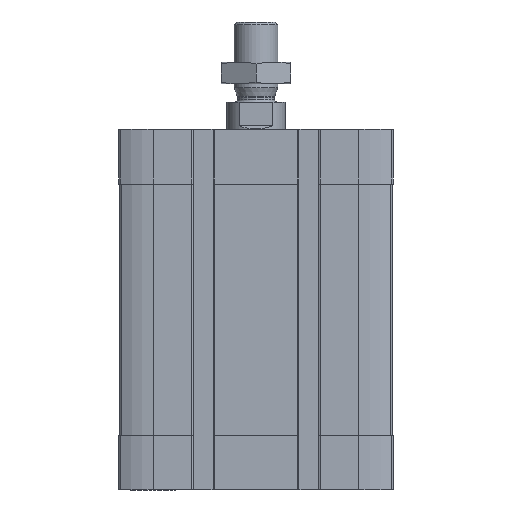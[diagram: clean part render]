
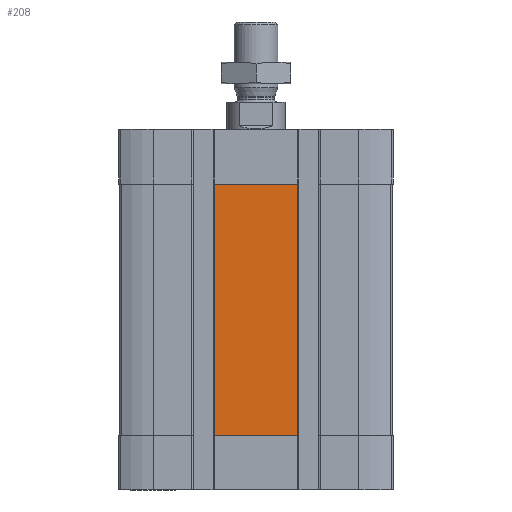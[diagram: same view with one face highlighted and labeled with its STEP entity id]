
A CAD part, front view. The second image highlights one B-rep face of the part: STEP entity #208.
In plain terms, the highlighted planar face has unit normal (0, -1, 0).
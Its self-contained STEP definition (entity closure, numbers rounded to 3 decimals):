
#208 = ADVANCED_FACE ( 'NONE', ( #1487 ), #9858, .T. ) ;
#984 = VERTEX_POINT ( 'NONE', #15698 ) ;
#1097 = ORIENTED_EDGE ( 'NONE', *, *, #8357, .T. ) ;
#1139 = DIRECTION ( 'NONE',  ( 0., 0., -1. ) ) ;
#1227 = CARTESIAN_POINT ( 'NONE',  ( -11.4, -37.5, -84. ) ) ;
#1487 = FACE_OUTER_BOUND ( 'NONE', #5169, .T. ) ;
#2251 = VECTOR ( 'NONE', #11407, 1000. ) ;
#2263 = LINE ( 'NONE', #11424, #2251 ) ;
#3756 = VERTEX_POINT ( 'NONE', #7557 ) ;
#3883 = ORIENTED_EDGE ( 'NONE', *, *, #5575, .T. ) ;
#4306 = EDGE_CURVE ( 'NONE', #10900, #3756, #5709, .T. ) ;
#4463 = EDGE_CURVE ( 'NONE', #4849, #984, #5386, .T. ) ;
#4685 = CARTESIAN_POINT ( 'NONE',  ( -11.4, -37.5, -84. ) ) ;
#4849 = VERTEX_POINT ( 'NONE', #4685 ) ;
#5169 = EDGE_LOOP ( 'NONE', ( #9679, #3883, #8457, #1097 ) ) ;
#5330 = VECTOR ( 'NONE', #8381, 1000. ) ;
#5386 = LINE ( 'NONE', #8251, #5330 ) ;
#5575 = EDGE_CURVE ( 'NONE', #984, #10900, #2263, .T. ) ;
#5692 = VECTOR ( 'NONE', #9510, 1000. ) ;
#5709 = LINE ( 'NONE', #9732, #5692 ) ;
#6358 = VECTOR ( 'NONE', #1139, 1000. ) ;
#6510 = LINE ( 'NONE', #1227, #6358 ) ;
#7557 = CARTESIAN_POINT ( 'NONE',  ( -11.4, -37.5, -15. ) ) ;
#8251 = CARTESIAN_POINT ( 'NONE',  ( -11.4, -37.5, -84. ) ) ;
#8357 = EDGE_CURVE ( 'NONE', #3756, #4849, #6510, .T. ) ;
#8381 = DIRECTION ( 'NONE',  ( 1., 0., 0. ) ) ;
#8457 = ORIENTED_EDGE ( 'NONE', *, *, #4306, .T. ) ;
#9510 = DIRECTION ( 'NONE',  ( -1., 0., 0. ) ) ;
#9679 = ORIENTED_EDGE ( 'NONE', *, *, #4463, .T. ) ;
#9732 = CARTESIAN_POINT ( 'NONE',  ( 0., -37.5, -15. ) ) ;
#9858 = PLANE ( 'NONE',  #11853 ) ;
#10171 = CARTESIAN_POINT ( 'NONE',  ( -11.4, -37.5, -84. ) ) ;
#10318 = DIRECTION ( 'NONE',  ( 0., -1., 0. ) ) ;
#10340 = DIRECTION ( 'NONE',  ( 0., 0., -1. ) ) ;
#10900 = VERTEX_POINT ( 'NONE', #11835 ) ;
#11407 = DIRECTION ( 'NONE',  ( 0., 0., 1. ) ) ;
#11424 = CARTESIAN_POINT ( 'NONE',  ( 11.4, -37.5, -84. ) ) ;
#11835 = CARTESIAN_POINT ( 'NONE',  ( 11.4, -37.5, -15. ) ) ;
#11853 = AXIS2_PLACEMENT_3D ( 'NONE', #10171, #10318, #10340 ) ;
#15698 = CARTESIAN_POINT ( 'NONE',  ( 11.4, -37.5, -84. ) ) ;
